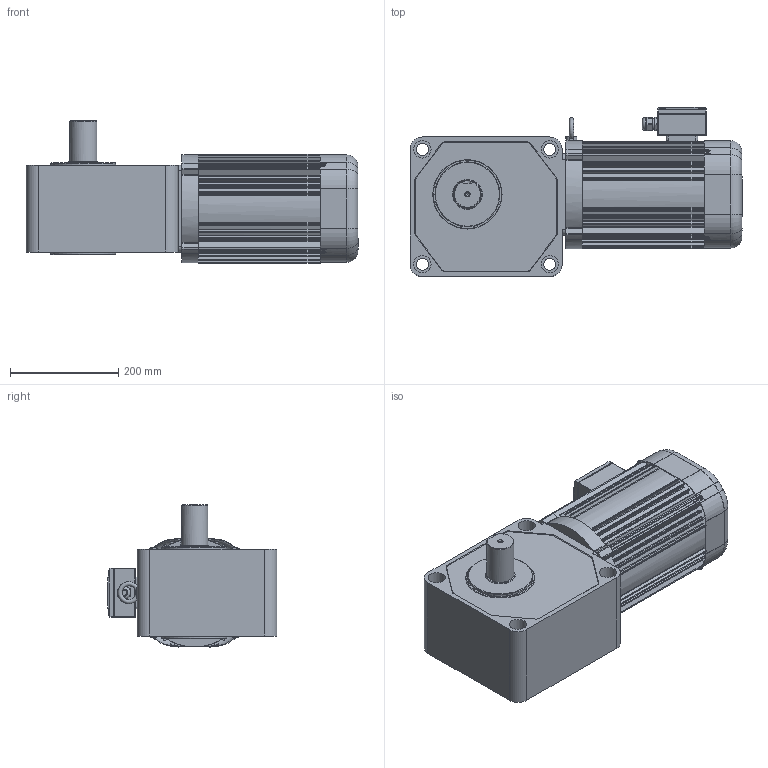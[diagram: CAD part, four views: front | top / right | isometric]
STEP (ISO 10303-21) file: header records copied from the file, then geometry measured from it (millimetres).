
FILE_DESCRIPTION(/* description */ (''),/* implementation_level */ '2;1');
FILE_NAME(/* name */ 'Z:\동력 3D 파일\PCS50R_2.2kW_3D.stp',/* time_stamp */ '2021-11-09T17:18:00+09:00',/* author */ ('jaebok'),/* organization */ (''),/* preprocessor_version */ 'ST-DEVELOPER v18.1',/* originating_system */ 'Autodesk Inventor 2022',/* authorisation */ '');
FILE_SCHEMA (('AUTOMOTIVE_DESIGN { 1 0 10303 214 3 1 1 }'));
Length unit declared in the file: millimetre
Products named in the file (1): 부품79
Bounding box: 613 x 313 x 262.4 mm (x, y, z)
Volume: 14246632.2 mm3; surface area: 1103110.9 mm2
Topology: 1 solids, 25 shells, 1401 faces, 3738 edges, 2417 vertices
Faces by surface type: plane 700, cylinder 555, torus 59, cone 57, bspline 26, sphere 4
Full cylindrical faces by diameter (mm): 3.25 x1, 3.5 x4, 3.6 x4, 4 x21, 5 x13, 6 x5, 6.647 x5, 7 x8, 8 x1, 8.8 x1, 9 x4, 10 x3, 12.5 x1, 15 x1, 20 x2, 21 x1, 22 x4, 23.6 x1, 25 x2, 31 x1, 32 x4, 36 x1, 50 x2, 62 x1, 120 x2, 176 x1, 180 x2, 181 x1, 185.4 x2, 188 x4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
Entity records: 47035 total; most frequent: CARTESIAN_POINT 10079, DIRECTION 7746, ORIENTED_EDGE 7448, EDGE_CURVE 3724, AXIS2_PLACEMENT_3D 2892, VERTEX_POINT 2417, LINE 1962, VECTOR 1962
